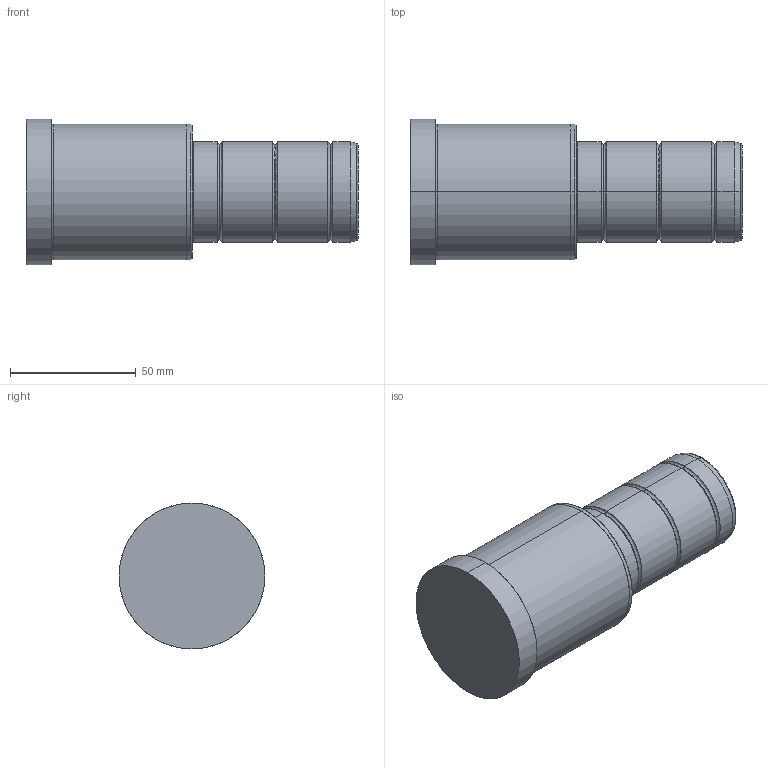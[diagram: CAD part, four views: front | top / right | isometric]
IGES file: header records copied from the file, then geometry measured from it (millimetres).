
Start section: SolidWorks IGES file using analytic representation for surfaces
Global section: file name: C:\Documents and Settings\kalite-mail\Desktop\IGS\D02\40\D02 - 40x66x66.IGS; native system: SolidWorks 2008; preprocessor: SolidWorks 2008; author: kalite-mail; date: 080617.100636; units: millimetre
Bounding box: 132 x 58 x 58 mm (x, y, z)
Surface area: 25101.8 mm2 (no closed solid volume)
Topology: 0 solids, 0 shells, 42 faces, 784 edges, 784 vertices
Faces by surface type: bspline 22, revolution 20
